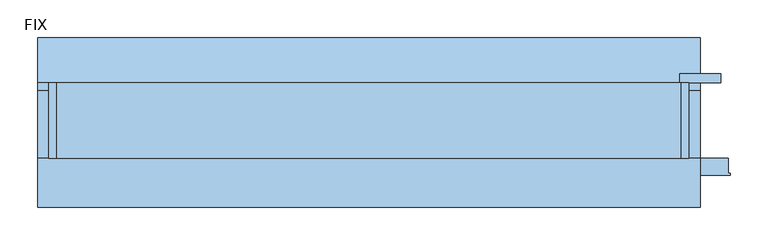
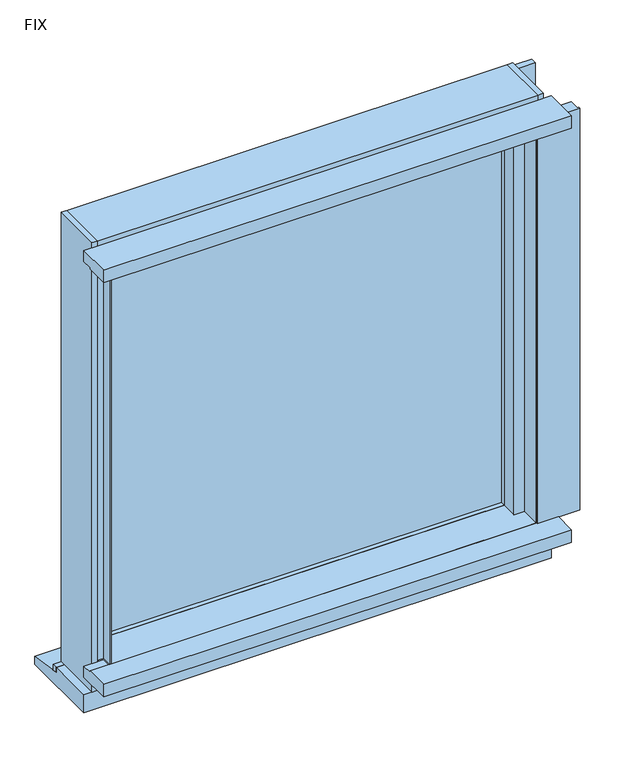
"""IFC4 building model written with IfcOpenShell, lengths in millimetres: window geometry, FNSⅡ100R_非防火_RC枠_単窓 : FIX."""

from ifc_helpers import new_model, si_unit, frame, origin, place, context, project, spatial, polyline, outline, extrude, faceted_brep, source, transform, mapped, element, save


def fix_e6d95c7c(model_context):
    return source(origin(), model_context, "Body", "SolidModel", [
        extrude(outline(polyline([(-380.0, 20.6), (380.0, 20.6), (380.0, 14.6), (-380.0, 14.6), (-380.0, 20.6)])), frame((0.0, 0.0, 900.0), z_axis=(0.0, 0.0, 1.0), x_axis=(1.0, 0.0, 0.0)), (0.0, 0.0, 1.0), 780.0),
        extrude(outline(polyline([(-380.0, 38.6), (380.0, 38.6), (380.0, 32.6), (-380.0, 32.6), (-380.0, 38.6)])), frame((0.0, 0.0, 900.0), z_axis=(0.0, 0.0, 1.0), x_axis=(1.0, 0.0, 0.0)), (0.0, 0.0, 1.0), 780.0),
        faceted_brep([(-380.0, 5.0, 1680.0), (-415.0, 5.0, 1680.0), (-415.0, 5.0, 900.0), (-380.0, 5.0, 900.0), (-380.0, 55.0, 1680.0), (-380.0, 55.0, 900.0), (-415.0, 55.0, 1735.0), (-415.0, -45.0, 1735.0), (-415.0, -45.0, 840.0), (-415.0, 55.0, 840.0), (-415.0, 55.0, 900.0), (-415.0, 55.0, 1680.0), (-425.0, 55.0, 1735.0), (-425.0, -45.0, 1735.0), (-425.0, 55.0, 840.0), (-425.0, -45.0, 840.0)], [[[0, 1, 2, 3]], [[4, 0, 3, 5]], [[6, 7, 8, 9, 10, 2, 1, 11]], [[5, 3, 2, 10]], [[12, 13, 7, 6]], [[14, 9, 8, 15]], [[13, 12, 14, 15]], [[7, 13, 15, 8]], [[12, 6, 11, 4, 5, 10, 9, 14]], [[4, 11, 1, 0]]]),
        faceted_brep([(380.0, 5.0, 1680.0), (380.0, 55.0, 1680.0), (380.0, 55.0, 900.0), (380.0, 5.0, 900.0), (415.0, 5.0, 1680.0), (415.0, 5.0, 900.0), (425.0, -45.0, 1735.0), (415.0, -45.0, 1735.0), (415.0, -45.0, 840.0), (425.0, -45.0, 840.0), (425.0, 55.0, 1735.0), (425.0, 55.0, 840.0), (415.0, 55.0, 900.0), (415.0, 55.0, 1735.0), (415.0, 55.0, 840.0), (415.0, 55.0, 1680.0)], [[[0, 1, 2, 3]], [[4, 0, 3, 5]], [[6, 7, 8, 9]], [[10, 6, 9, 11]], [[5, 3, 2, 12]], [[10, 13, 7, 6]], [[11, 9, 8, 14]], [[13, 10, 11, 14, 12, 2, 1, 15]], [[7, 13, 15, 4, 5, 12, 14, 8]], [[15, 1, 0, 4]]]),
        extrude(outline(polyline([(400.0, -65.0), (400.0, -26.5), (380.0, -26.5), (380.0, 5.0), (415.0, 5.0), (415.0, -45.0), (403.0, -45.0), (403.0, -65.0), (400.0, -65.0)])), frame((0.0, 0.0, 900.0), z_axis=(0.0, 0.0, 1.0), x_axis=(1.0, 0.0, 0.0)), (0.0, 0.0, 1.0), 800.0),
        extrude(outline(polyline([(-415.0, -45.0), (-415.0, 5.0), (-380.0, 5.0), (-380.0, -26.5), (-400.0, -26.5), (-400.0, -65.0), (-403.0, -65.0), (-403.0, -45.0), (-415.0, -45.0)])), frame((0.0, 0.0, 900.0), z_axis=(0.0, 0.0, 1.0), x_axis=(1.0, 0.0, 0.0)), (0.0, 0.0, 1.0), 800.0),
        extrude(outline(polyline([(-45.0, 884.0), (-45.0, 897.0), (-65.0, 897.0), (-65.0, 900.0), (5.0, 900.0), (5.0, 884.0), (-45.0, 884.0)])), frame((-403.0, 0.0, 0.0), z_axis=(1.0, 0.0, 0.0), x_axis=(0.0, 1.0, 0.0)), (0.0, 0.0, 1.0), 806.0),
        extrude(outline(polyline([(55.0, 840.0), (-45.0, 840.0), (-45.0, 884.0), (5.0, 884.0), (5.0, 900.0), (55.0, 900.0), (55.0, 870.0), (36.0, 870.0), (36.0, 850.0), (55.0, 850.0), (55.0, 840.0)])), frame((-415.0, 0.0, 0.0), z_axis=(1.0, 0.0, 0.0), x_axis=(0.0, 1.0, 0.0)), (0.0, 0.0, 1.0), 830.0),
        extrude(outline(polyline([(5.0, 1677.0), (-29.0, 1677.0), (-29.0, 1700.0), (-65.0, 1700.0), (-65.0, 1703.0), (-45.0, 1703.0), (-45.0, 1715.0), (5.0, 1715.0), (5.0, 1677.0)])), frame((-403.0, 0.0, 0.0), z_axis=(1.0, 0.0, 0.0), x_axis=(0.0, 1.0, 0.0)), (0.0, 0.0, 1.0), 806.0),
        extrude(outline(polyline([(55.0, 1680.0), (5.0, 1680.0), (5.0, 1715.0), (-45.0, 1715.0), (-45.0, 1735.0), (55.0, 1735.0), (55.0, 1680.0)])), frame((-415.0, 0.0, 0.0), z_axis=(1.0, 0.0, 0.0), x_axis=(0.0, 1.0, 0.0)), (0.0, 0.0, 1.0), 830.0),
        extrude(outline(polyline([(-110.0, 900.0), (-65.0, 900.0), (-65.0, 897.0), (-45.0, 897.0), (-45.0, 875.0), (-110.0, 875.0), (-110.0, 900.0)])), frame((-440.0, 0.0, 0.0), z_axis=(1.0, 0.0, 0.0), x_axis=(0.0, 1.0, 0.0)), (0.0, 0.0, 1.0), 880.0),
        extrude(outline(polyline([(45.0, 840.0), (55.0, 840.0), (55.0, 828.4285714), (45.0, 830.0), (45.0, 840.0)])), frame((-440.0, 0.0, 0.0), z_axis=(1.0, 0.0, 0.0), x_axis=(0.0, 1.0, 0.0)), (0.0, 0.0, 1.0), 880.0),
        extrude(outline(polyline([(-45.0, 804.0), (-45.0, 840.0), (45.0, 840.0), (45.0, 830.0), (115.0, 819.0), (115.0, 804.0), (-45.0, 804.0)])), frame((-440.0, 0.0, 0.0), z_axis=(1.0, 0.0, 0.0), x_axis=(0.0, 1.0, 0.0)), (0.0, 0.0, 1.0), 880.0),
        extrude(outline(polyline([(403.0, -65.0), (403.0, -45.0), (477.0, -45.0), (477.0, -65.0), (480.0, -65.0), (480.0, -67.5), (400.0, -67.5), (400.0, -65.0), (403.0, -65.0)])), frame((0.0, 0.0, 900.0), z_axis=(0.0, 0.0, 1.0), x_axis=(1.0, 0.0, 0.0)), (0.0, 0.0, 1.0), 800.0),
        extrude(outline(polyline([(467.5, 55.0), (412.5, 55.0), (412.5, 67.0), (467.5, 67.0), (467.5, 55.0)])), frame((0.0, 0.0, 840.0), z_axis=(0.0, 0.0, 1.0), x_axis=(1.0, 0.0, 0.0)), (0.0, 0.0, 1.0), 880.0),
        extrude(outline(polyline([(-110.0, 1725.0), (-45.0, 1725.0), (-45.0, 1703.0), (-65.0, 1703.0), (-65.0, 1700.0), (-110.0, 1700.0), (-110.0, 1725.0)])), frame((-440.0, 0.0, 0.0), z_axis=(1.0, 0.0, 0.0), x_axis=(0.0, 1.0, 0.0)), (0.0, 0.0, 1.0), 880.0),
    ])


if __name__ == "__main__":
    model = new_model("IFC4")
    model_context = context("Model", 3, world=origin())
    ifc_project = project(units=[si_unit("LENGTHUNIT", "METRE", prefix="MILLI")], contexts=[model_context])
    site = spatial("IfcSite", under=ifc_project)
    building = spatial("IfcBuilding", under=site)
    placement = place(None, origin())
    fix_shape = fix_e6d95c7c(model_context)
    element("IfcWindow", 1, ObjectType="FNSⅡ100R_非防火_RC枠_単窓 : FIX", at=placement, inside=building, context=model_context, shape_type="MappedRepresentation", body=[
        mapped(fix_shape, transform((0.0, 0.0, 0.0), x_axis=(1.0, 0.0, 0.0), y_axis=(0.0, 1.0, 0.0), z_axis=(0.0, 0.0, 1.0))),
    ])
    save(model, "model.ifc")
